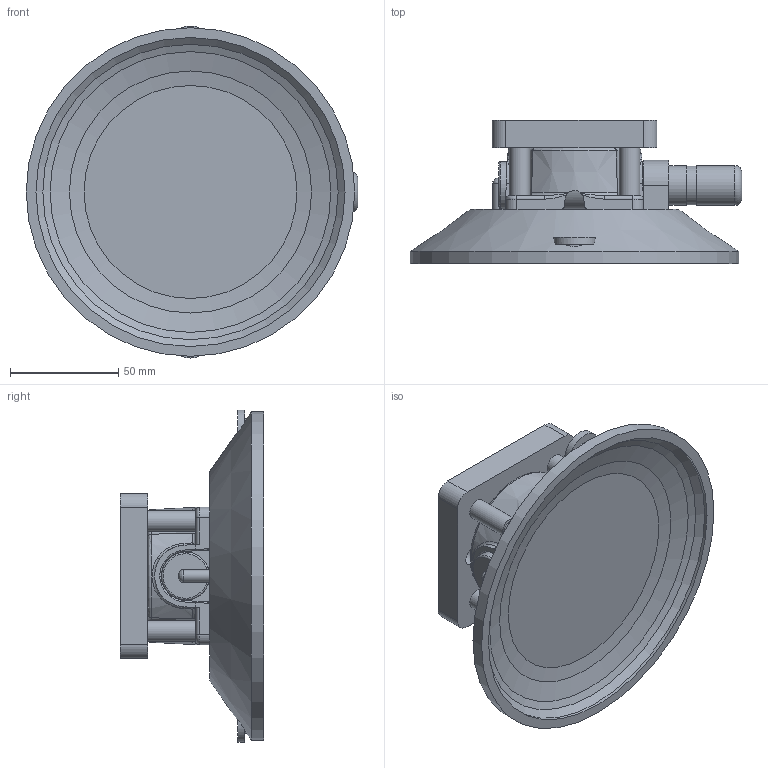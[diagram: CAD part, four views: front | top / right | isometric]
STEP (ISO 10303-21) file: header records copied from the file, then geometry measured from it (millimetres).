
FILE_DESCRIPTION(/* description */ (''),/* implementation_level */ '2;1');
FILE_NAME(/* name */ 'C:\Users\Doug Biddinger\Desktop\PL-VB1\PL-VB1.stp',/* time_stamp */ '2019-08-29T16:58:50-04:00',/* author */ ('Doug Biddinger'),/* organization */ (''),/* preprocessor_version */ 'ST-DEVELOPER v18',/* originating_system */ 'Autodesk Inventor 2020',/* authorisation */ '');
FILE_SCHEMA (('CONFIG_CONTROL_DESIGN'));
Products named in the file (5): PL-VB1; 60215; 60212; 60213; 60214
Assembly tree (10 placements, depth 2):
  PL-VB1
    60215
    60212
    60213  x4
    60214  x4
Bounding box: 153.29 x 66.29 x 153.48 mm (x, y, z)
Volume: 374614.9 mm3; surface area: 91396.3 mm2
Topology: 11 solids, 11 shells, 1336 faces, 3600 edges, 2376 vertices
Faces by surface type: plane 545, bspline 380, cylinder 315, cone 56, torus 32, sphere 8
Full cylindrical faces by diameter (mm): 3.795 x108, 3.962 x4, 4.826 x112, 4.928 x2, 4.978 x1, 5.08 x1, 5.613 x8, 5.842 x1, 7.869 x1, 7.938 x4, 8.382 x2, 9.525 x8, 17.932 x1, 18.44 x2, 22.225 x1, 142.875 x1, 151.892 x1
Entity records: 46292 total; most frequent: CARTESIAN_POINT 21254, ORIENTED_EDGE 5816, DIRECTION 3779, EDGE_CURVE 2908, VERTEX_POINT 1929, LINE 1643, VECTOR 1643, EDGE_LOOP 1199
